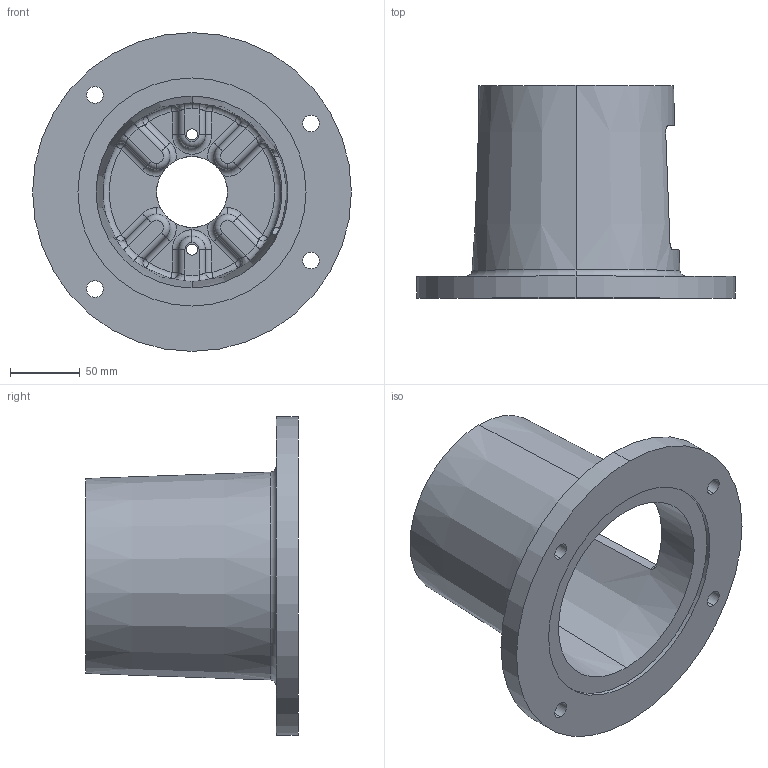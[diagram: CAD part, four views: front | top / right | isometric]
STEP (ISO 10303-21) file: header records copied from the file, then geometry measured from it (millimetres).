
FILE_DESCRIPTION (( 'STEP AP203' ), '1' );
FILE_NAME ('E700602AA.STEP', '2014-11-04T13:09:17', ( '' ), ( '' ), 'SwSTEP 2.0', 'SolidWorks 2014', '' );
FILE_SCHEMA (( 'CONFIG_CONTROL_DESIGN' ));
Length unit declared in the file: inch
Products named in the file (1): E700602AA
Bounding box: 228.6 x 152.4 x 228.6 mm (x, y, z)
Volume: 849608.7 mm3; surface area: 203432.4 mm2
Topology: 1 solids, 1 shells, 158 faces, 383 edges, 217 vertices
Faces by surface type: cylinder 55, torus 33, plane 30, bspline 24, sphere 12, cone 4
Entity records: 6250 total; most frequent: CARTESIAN_POINT 2589, DIRECTION 791, ORIENTED_EDGE 742, EDGE_CURVE 371, AXIS2_PLACEMENT_3D 349, VERTEX_POINT 217, CIRCLE 214, EDGE_LOOP 176
